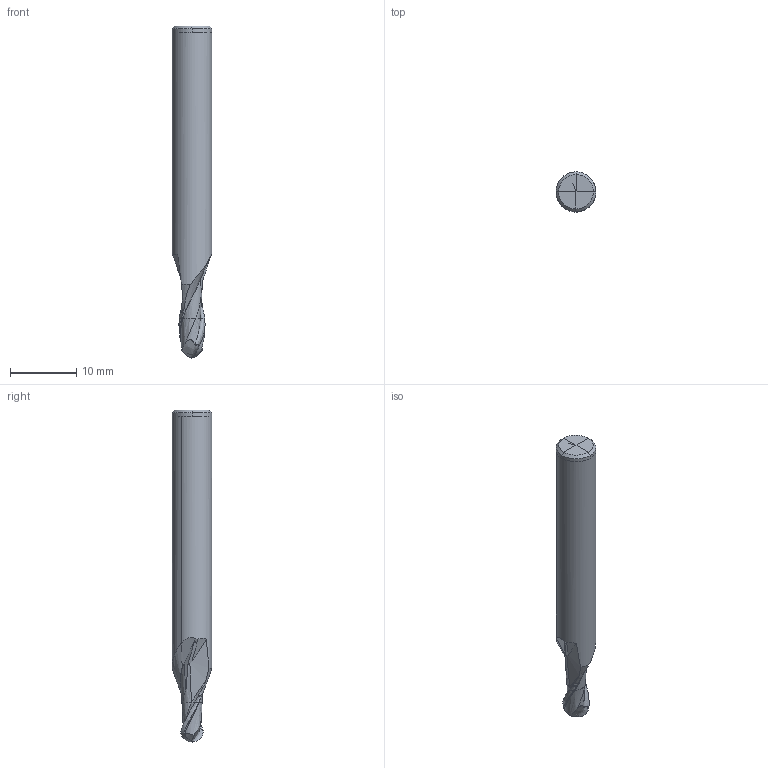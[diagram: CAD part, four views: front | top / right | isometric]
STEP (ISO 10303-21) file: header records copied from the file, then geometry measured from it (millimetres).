
FILE_DESCRIPTION(('CATIA V5 STEP','CAx-IF Rec.Pracs.--- Model Styling and Organization---1.2---2011-12-15'),'2;1');
FILE_NAME('N:\data\isr\design\special1\users\RUSLAN_S\1AA\5651195\EB-A2 04-06C06E50 D.stp','2020-01-10T07:35:06+00:00',('none'),('none'),'CATIA Version 5 Release 21 SP 5 (IN-10)','CATIA V5 STEP AP214','none');
FILE_SCHEMA(('AUTOMOTIVE_DESIGN { 1 0 10303 214 1 1 1 1 }'));
Length unit declared in the file: millimetre
Products named in the file (1): EB-A2 04-06C06E50
Bounding box: 6 x 6 x 50 mm (x, y, z)
Volume: 1150.4 mm3; surface area: 894.7 mm2
Topology: 2 solids, 2 shells, 78 faces, 250 edges, 174 vertices
Faces by surface type: bspline 69, cylinder 5, cone 2, plane 2
Entity records: 15427 total; most frequent: CARTESIAN_POINT 13798, ORIENTED_EDGE 486, EDGE_CURVE 243, B_SPLINE_CURVE_WITH_KNOTS 218, VERTEX_POINT 169, ADVANCED_FACE 78, EDGE_LOOP 78, FACE_OUTER_BOUND 78
